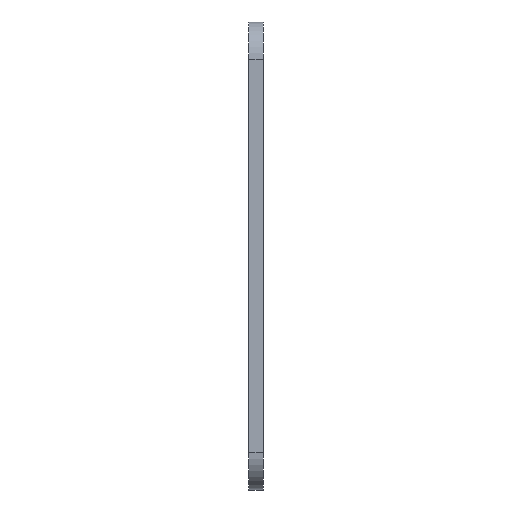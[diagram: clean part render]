
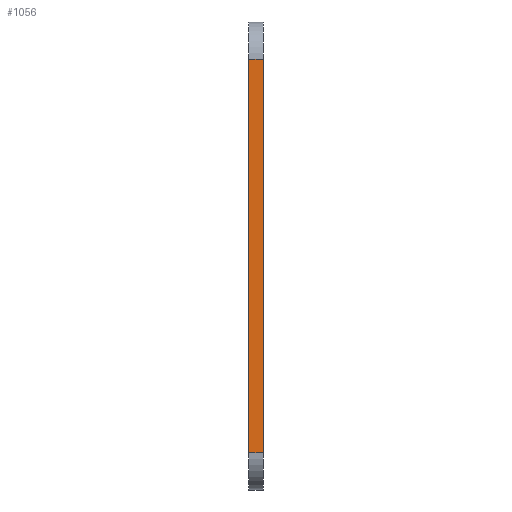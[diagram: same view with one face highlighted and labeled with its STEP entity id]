
A CAD part, front view. The second image highlights one B-rep face of the part: STEP entity #1056.
In plain terms, the highlighted planar face has unit normal (0, -1, 0).
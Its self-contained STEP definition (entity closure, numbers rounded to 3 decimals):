
#44 = PLANE('',#45);
#45 = AXIS2_PLACEMENT_3D('',#46,#47,#48);
#46 = CARTESIAN_POINT('',(115.,50.,50.));
#47 = DIRECTION('',(1.,0.,0.));
#48 = DIRECTION('',(-0.,0.,1.));
#72 = CYLINDRICAL_SURFACE('',#73,8.);
#73 = AXIS2_PLACEMENT_3D('',#74,#75,#76);
#74 = CARTESIAN_POINT('',(115.,8.,8.));
#75 = DIRECTION('',(1.,0.,0.));
#76 = DIRECTION('',(0.,0.,-1.));
#100 = PLANE('',#101);
#101 = AXIS2_PLACEMENT_3D('',#102,#103,#104);
#102 = CARTESIAN_POINT('',(118.,50.,50.));
#103 = DIRECTION('',(1.,0.,0.));
#104 = DIRECTION('',(-0.,0.,1.));
#252 = VERTEX_POINT('',#253);
#253 = CARTESIAN_POINT('',(115.,0.,92.));
#268 = CYLINDRICAL_SURFACE('',#269,8.);
#269 = AXIS2_PLACEMENT_3D('',#270,#271,#272);
#270 = CARTESIAN_POINT('',(115.,8.,92.));
#271 = DIRECTION('',(1.,0.,0.));
#272 = DIRECTION('',(0.,-0.,1.));
#280 = EDGE_CURVE('',#252,#281,#283,.T.);
#281 = VERTEX_POINT('',#282);
#282 = CARTESIAN_POINT('',(115.,0.,8.));
#283 = SURFACE_CURVE('',#284,(#288,#295),.PCURVE_S1.);
#284 = LINE('',#285,#286);
#285 = CARTESIAN_POINT('',(115.,0.,100.));
#286 = VECTOR('',#287,1.);
#287 = DIRECTION('',(0.,0.,-1.));
#288 = PCURVE('',#44,#289);
#289 = DEFINITIONAL_REPRESENTATION('',(#290),#294);
#290 = LINE('',#291,#292);
#291 = CARTESIAN_POINT('',(50.,50.));
#292 = VECTOR('',#293,1.);
#293 = DIRECTION('',(-1.,0.));
#294 = ( GEOMETRIC_REPRESENTATION_CONTEXT(2) 
PARAMETRIC_REPRESENTATION_CONTEXT() REPRESENTATION_CONTEXT('2D SPACE',''
  ) );
#295 = PCURVE('',#296,#301);
#296 = PLANE('',#297);
#297 = AXIS2_PLACEMENT_3D('',#298,#299,#300);
#298 = CARTESIAN_POINT('',(115.,0.,100.));
#299 = DIRECTION('',(-0.,1.,0.));
#300 = DIRECTION('',(0.,0.,-1.));
#301 = DEFINITIONAL_REPRESENTATION('',(#302),#306);
#302 = LINE('',#303,#304);
#303 = CARTESIAN_POINT('',(0.,0.));
#304 = VECTOR('',#305,1.);
#305 = DIRECTION('',(1.,0.));
#306 = ( GEOMETRIC_REPRESENTATION_CONTEXT(2) 
PARAMETRIC_REPRESENTATION_CONTEXT() REPRESENTATION_CONTEXT('2D SPACE',''
  ) );
#478 = EDGE_CURVE('',#281,#479,#481,.T.);
#479 = VERTEX_POINT('',#480);
#480 = CARTESIAN_POINT('',(118.,0.,8.));
#481 = SURFACE_CURVE('',#482,(#486,#493),.PCURVE_S1.);
#482 = LINE('',#483,#484);
#483 = CARTESIAN_POINT('',(115.,0.,8.));
#484 = VECTOR('',#485,1.);
#485 = DIRECTION('',(1.,0.,0.));
#486 = PCURVE('',#72,#487);
#487 = DEFINITIONAL_REPRESENTATION('',(#488),#492);
#488 = LINE('',#489,#490);
#489 = CARTESIAN_POINT('',(-1.571,0.));
#490 = VECTOR('',#491,1.);
#491 = DIRECTION('',(-0.,1.));
#492 = ( GEOMETRIC_REPRESENTATION_CONTEXT(2) 
PARAMETRIC_REPRESENTATION_CONTEXT() REPRESENTATION_CONTEXT('2D SPACE',''
  ) );
#493 = PCURVE('',#296,#494);
#494 = DEFINITIONAL_REPRESENTATION('',(#495),#499);
#495 = LINE('',#496,#497);
#496 = CARTESIAN_POINT('',(92.,0.));
#497 = VECTOR('',#498,1.);
#498 = DIRECTION('',(0.,-1.));
#499 = ( GEOMETRIC_REPRESENTATION_CONTEXT(2) 
PARAMETRIC_REPRESENTATION_CONTEXT() REPRESENTATION_CONTEXT('2D SPACE',''
  ) );
#654 = VERTEX_POINT('',#655);
#655 = CARTESIAN_POINT('',(118.,0.,92.));
#677 = EDGE_CURVE('',#654,#479,#678,.T.);
#678 = SURFACE_CURVE('',#679,(#683,#690),.PCURVE_S1.);
#679 = LINE('',#680,#681);
#680 = CARTESIAN_POINT('',(118.,0.,100.));
#681 = VECTOR('',#682,1.);
#682 = DIRECTION('',(0.,0.,-1.));
#683 = PCURVE('',#100,#684);
#684 = DEFINITIONAL_REPRESENTATION('',(#685),#689);
#685 = LINE('',#686,#687);
#686 = CARTESIAN_POINT('',(50.,50.));
#687 = VECTOR('',#688,1.);
#688 = DIRECTION('',(-1.,0.));
#689 = ( GEOMETRIC_REPRESENTATION_CONTEXT(2) 
PARAMETRIC_REPRESENTATION_CONTEXT() REPRESENTATION_CONTEXT('2D SPACE',''
  ) );
#690 = PCURVE('',#296,#691);
#691 = DEFINITIONAL_REPRESENTATION('',(#692),#696);
#692 = LINE('',#693,#694);
#693 = CARTESIAN_POINT('',(0.,-3.));
#694 = VECTOR('',#695,1.);
#695 = DIRECTION('',(1.,0.));
#696 = ( GEOMETRIC_REPRESENTATION_CONTEXT(2) 
PARAMETRIC_REPRESENTATION_CONTEXT() REPRESENTATION_CONTEXT('2D SPACE',''
  ) );
#1056 = ADVANCED_FACE('',(#1057),#296,.F.);
#1057 = FACE_BOUND('',#1058,.F.);
#1058 = EDGE_LOOP('',(#1059,#1060,#1081,#1082));
#1059 = ORIENTED_EDGE('',*,*,#280,.F.);
#1060 = ORIENTED_EDGE('',*,*,#1061,.T.);
#1061 = EDGE_CURVE('',#252,#654,#1062,.T.);
#1062 = SURFACE_CURVE('',#1063,(#1067,#1074),.PCURVE_S1.);
#1063 = LINE('',#1064,#1065);
#1064 = CARTESIAN_POINT('',(115.,0.,92.));
#1065 = VECTOR('',#1066,1.);
#1066 = DIRECTION('',(1.,0.,0.));
#1067 = PCURVE('',#296,#1068);
#1068 = DEFINITIONAL_REPRESENTATION('',(#1069),#1073);
#1069 = LINE('',#1070,#1071);
#1070 = CARTESIAN_POINT('',(8.,0.));
#1071 = VECTOR('',#1072,1.);
#1072 = DIRECTION('',(0.,-1.));
#1073 = ( GEOMETRIC_REPRESENTATION_CONTEXT(2) 
PARAMETRIC_REPRESENTATION_CONTEXT() REPRESENTATION_CONTEXT('2D SPACE',''
  ) );
#1074 = PCURVE('',#268,#1075);
#1075 = DEFINITIONAL_REPRESENTATION('',(#1076),#1080);
#1076 = LINE('',#1077,#1078);
#1077 = CARTESIAN_POINT('',(1.571,0.));
#1078 = VECTOR('',#1079,1.);
#1079 = DIRECTION('',(0.,1.));
#1080 = ( GEOMETRIC_REPRESENTATION_CONTEXT(2) 
PARAMETRIC_REPRESENTATION_CONTEXT() REPRESENTATION_CONTEXT('2D SPACE',''
  ) );
#1081 = ORIENTED_EDGE('',*,*,#677,.T.);
#1082 = ORIENTED_EDGE('',*,*,#478,.F.);
